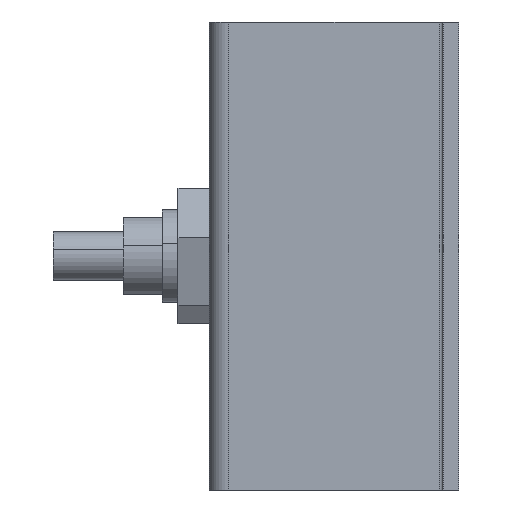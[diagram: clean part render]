
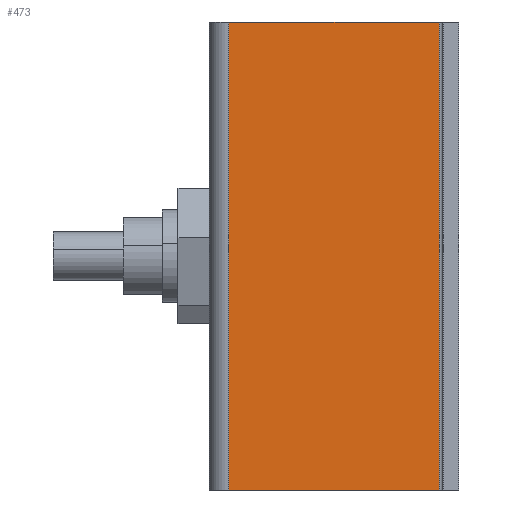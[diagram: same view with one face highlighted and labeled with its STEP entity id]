
A CAD part, left-side view. The second image highlights one B-rep face of the part: STEP entity #473.
In plain terms, the highlighted planar face has unit normal (-1, 0, 0).
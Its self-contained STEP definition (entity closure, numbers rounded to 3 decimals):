
#71 = CARTESIAN_POINT ( 'NONE',  ( -184.5, 27.5, 30. ) ) ;
#73 = EDGE_LOOP ( 'NONE', ( #340, #1632, #1521, #615 ) ) ;
#79 = EDGE_CURVE ( 'NONE', #1254, #2182, #352, .T. ) ;
#340 = ORIENTED_EDGE ( 'NONE', *, *, #2807, .F. ) ;
#352 = LINE ( 'NONE', #1038, #1648 ) ;
#397 = CARTESIAN_POINT ( 'NONE',  ( -184.5, 0., -30. ) ) ;
#439 = CARTESIAN_POINT ( 'NONE',  ( -184.5, 0., 30. ) ) ;
#473 = ADVANCED_FACE ( 'NONE', ( #2805 ), #2567, .T. ) ;
#523 = VERTEX_POINT ( 'NONE', #2552 ) ;
#549 = VECTOR ( 'NONE', #2331, 1000. ) ;
#615 = ORIENTED_EDGE ( 'NONE', *, *, #2663, .T. ) ;
#669 = DIRECTION ( 'NONE',  ( 0., 1., 0. ) ) ;
#826 = VECTOR ( 'NONE', #2542, 1000. ) ;
#862 = AXIS2_PLACEMENT_3D ( 'NONE', #1255, #2095, #1444 ) ;
#1038 = CARTESIAN_POINT ( 'NONE',  ( -184.5, 0.5, 30. ) ) ;
#1172 = LINE ( 'NONE', #1866, #826 ) ;
#1254 = VERTEX_POINT ( 'NONE', #2830 ) ;
#1255 = CARTESIAN_POINT ( 'NONE',  ( -184.5, 0., 30. ) ) ;
#1444 = DIRECTION ( 'NONE',  ( 0., 0., 1. ) ) ;
#1504 = EDGE_CURVE ( 'NONE', #1254, #2223, #2856, .T. ) ;
#1521 = ORIENTED_EDGE ( 'NONE', *, *, #1504, .T. ) ;
#1632 = ORIENTED_EDGE ( 'NONE', *, *, #79, .F. ) ;
#1648 = VECTOR ( 'NONE', #2584, 1000. ) ;
#1866 = CARTESIAN_POINT ( 'NONE',  ( -184.5, 27.5, 30. ) ) ;
#2095 = DIRECTION ( 'NONE',  ( -1., 0., 0. ) ) ;
#2182 = VERTEX_POINT ( 'NONE', #2234 ) ;
#2223 = VERTEX_POINT ( 'NONE', #71 ) ;
#2234 = CARTESIAN_POINT ( 'NONE',  ( -184.5, 0.5, -30. ) ) ;
#2331 = DIRECTION ( 'NONE',  ( 0., 1., 0. ) ) ;
#2454 = VECTOR ( 'NONE', #669, 1000. ) ;
#2542 = DIRECTION ( 'NONE',  ( 0., 0., -1. ) ) ;
#2552 = CARTESIAN_POINT ( 'NONE',  ( -184.5, 27.5, -30. ) ) ;
#2567 = PLANE ( 'NONE',  #862 ) ;
#2584 = DIRECTION ( 'NONE',  ( 0., 0., -1. ) ) ;
#2663 = EDGE_CURVE ( 'NONE', #2223, #523, #1172, .T. ) ;
#2805 = FACE_OUTER_BOUND ( 'NONE', #73, .T. ) ;
#2807 = EDGE_CURVE ( 'NONE', #2182, #523, #2824, .T. ) ;
#2824 = LINE ( 'NONE', #397, #549 ) ;
#2830 = CARTESIAN_POINT ( 'NONE',  ( -184.5, 0.5, 30. ) ) ;
#2856 = LINE ( 'NONE', #439, #2454 ) ;
